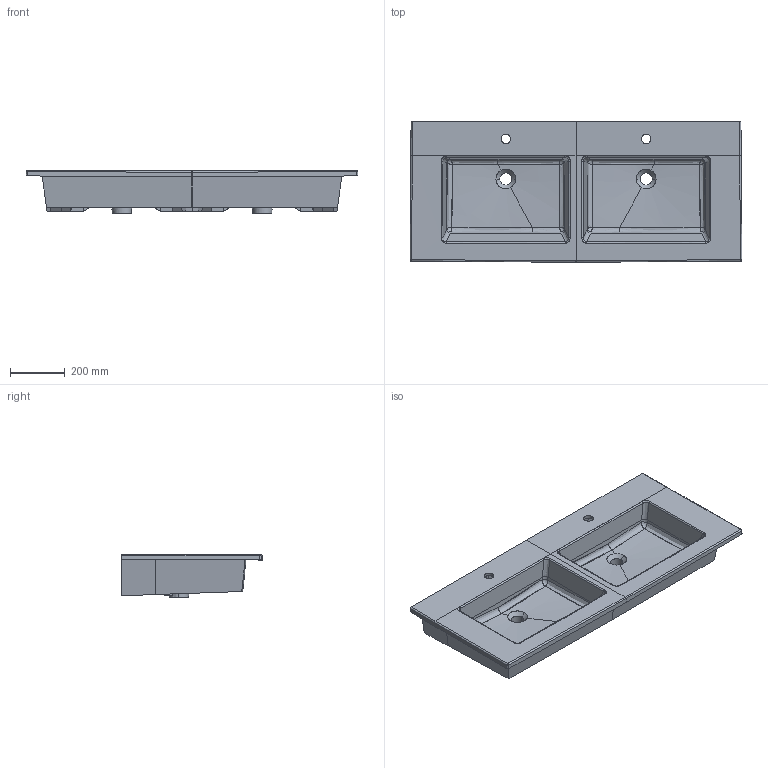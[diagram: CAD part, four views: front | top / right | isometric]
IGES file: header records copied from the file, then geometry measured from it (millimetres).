
Start section: START RECORD GO HERE.
Global section: file name: 2044_Lav PLUS 121 DV.igs; native system: DASSAULT SYSTEMES CATIA V5 R19 - www.3ds.com; preprocessor: CATIA Version 5 Release 19 SP 5 ; author: gioge; organization: LAPTOP-G94B6G74; date: 20200622.115743; units: millimetre
Bounding box: 1216.94 x 515.67 x 157.5 mm (x, y, z)
Surface area: 2352940.4 mm2 (no closed solid volume)
Topology: 0 solids, 0 shells, 270 faces, 1427 edges, 1427 vertices
Faces by surface type: bspline 182, plane 54, revolution 24, extrusion 10
